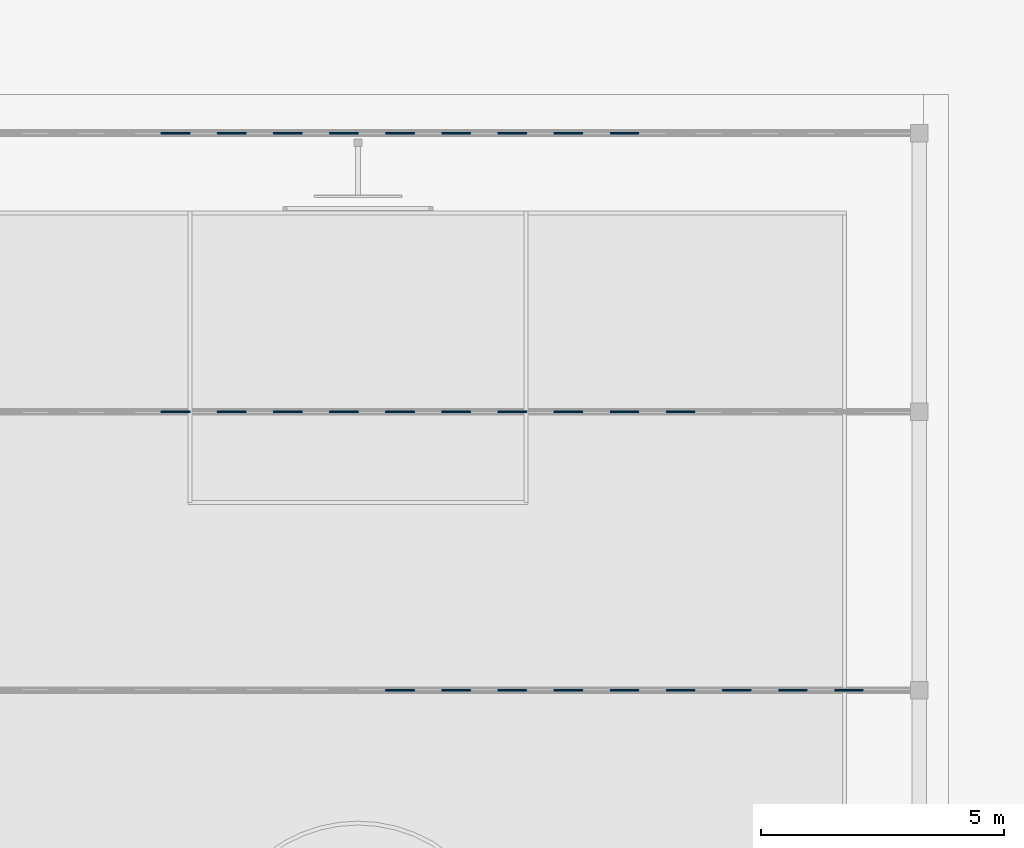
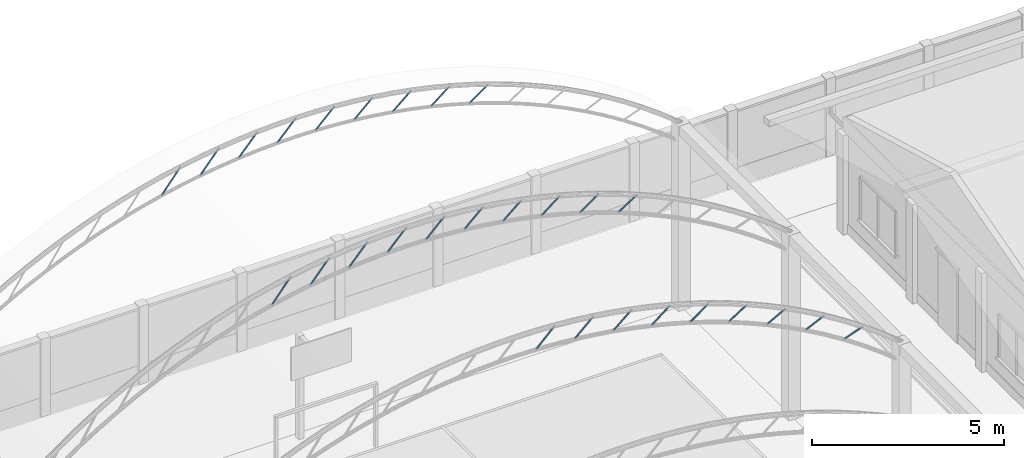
# One storey, part 37 of 177: 28 beams.
"""IFC4 building model written with IfcOpenShell, lengths in metres."""

from ifc_helpers import new_model, si_unit, origin, origin_with_axes, place, context, subcontext, project, spatial, triangles, element, save


model = new_model("IFC4")

# Units and contexts
model_context = context("Model", 3, precision=1e-05, world=origin_with_axes())
body_context = subcontext(model_context, "Body", "Model", "MODEL_VIEW")
ifc_project = project(units=[si_unit("LENGTHUNIT", "METRE"), si_unit("AREAUNIT", "SQUARE_METRE"), si_unit("VOLUMEUNIT", "CUBIC_METRE"), si_unit("PLANEANGLEUNIT", "RADIAN")], contexts=[model_context])

# Site, building, storey
site_placement = place(None, origin_with_axes())
site = spatial("IfcSite", under=ifc_project, at=site_placement, Name="Predio Los Mangos - Morales, San Martín", CompositionType="ELEMENT")
building_placement = place(site_placement, origin())
building = spatial("IfcBuilding", under=site, at=building_placement, Name="Hogar de Refugio Temporal", CompositionType="ELEMENT")
storey_placement = place(building_placement, origin())
storey = spatial("IfcBuildingStorey", under=building, at=storey_placement, Name="NIVEL 1 (NPT +0.00)", CompositionType="ELEMENT", Elevation=0.0)

# Beams
beam_1_placement = place(storey_placement, origin())
element("IfcBeam", 1, at=beam_1_placement, inside=storey, Name="diag", ObjectType="Viga", PredefinedType="BEAM", context=body_context, shape_type="Tessellation", body=[
    triangles([(15.6187, 115.555, 9.5496), (15.6123, 115.5458, 9.5561), (15.6099, 115.5333, 9.5585), (15.6123, 115.5208, 9.5561), (15.6187, 115.5117, 9.5496), (15.6275, 115.5083, 9.5407), (15.6363, 115.5117, 9.5318), (15.6427, 115.5208, 9.5253), (15.6451, 115.5333, 9.523), (15.6427, 115.5458, 9.5253), (15.6363, 115.555, 9.5318), (15.6275, 115.5583, 9.5407), (16.1962, 115.555, 10.1217), (16.1898, 115.5458, 10.1282), (16.1874, 115.5333, 10.1306), (16.1898, 115.5208, 10.1282), (16.1962, 115.5117, 10.1217), (16.205, 115.5083, 10.1129), (16.2138, 115.5117, 10.104), (16.2202, 115.5208, 10.0975), (16.2226, 115.5333, 10.0951), (16.2202, 115.5458, 10.0975), (16.2138, 115.555, 10.104), (16.205, 115.5583, 10.1129)], [[1, 13, 24], [1, 24, 12], [2, 14, 13], [2, 13, 1], [3, 15, 14], [3, 14, 2], [4, 16, 15], [4, 15, 3], [5, 17, 16], [5, 16, 4], [6, 18, 17], [6, 17, 5], [7, 19, 18], [7, 18, 6], [8, 20, 19], [8, 19, 7], [9, 21, 20], [9, 20, 8], [10, 22, 21], [10, 21, 9], [11, 23, 22], [11, 22, 10], [12, 24, 23], [12, 23, 11]]),
])
beam_2_placement = place(storey_placement, origin())
element("IfcBeam", 2, at=beam_2_placement, inside=storey, Name="diag", ObjectType="Viga", PredefinedType="BEAM", context=body_context, shape_type="Tessellation", body=[
    triangles([(16.774, 115.555, 9.4755), (16.7678, 115.5458, 9.4822), (16.7655, 115.5333, 9.4847), (16.7678, 115.5208, 9.4822), (16.774, 115.5117, 9.4755), (16.7825, 115.5083, 9.4663), (16.791, 115.5117, 9.4572), (16.7972, 115.5208, 9.4505), (16.7995, 115.5333, 9.448), (16.7972, 115.5458, 9.4505), (16.791, 115.555, 9.4572), (16.7825, 115.5583, 9.4663), (17.3515, 115.555, 10.0102), (17.3453, 115.5458, 10.0169), (17.343, 115.5333, 10.0193), (17.3453, 115.5208, 10.0169), (17.3515, 115.5117, 10.0102), (17.36, 115.5083, 10.001), (17.3685, 115.5117, 9.9918), (17.3747, 115.5208, 9.9851), (17.377, 115.5333, 9.9827), (17.3747, 115.5458, 9.9851), (17.3685, 115.555, 9.9918), (17.36, 115.5583, 10.001)], [[1, 13, 24], [1, 24, 12], [2, 14, 13], [2, 13, 1], [3, 15, 14], [3, 14, 2], [4, 16, 15], [4, 15, 3], [5, 17, 16], [5, 16, 4], [6, 18, 17], [6, 17, 5], [7, 19, 18], [7, 18, 6], [8, 20, 19], [8, 19, 7], [9, 21, 20], [9, 20, 8], [10, 22, 21], [10, 21, 9], [11, 23, 22], [11, 22, 10], [12, 24, 23], [12, 23, 11]]),
])
beam_3_placement = place(storey_placement, origin())
element("IfcBeam", 3, at=beam_3_placement, inside=storey, Name="diag", ObjectType="Viga", PredefinedType="BEAM", context=body_context, shape_type="Tessellation", body=[
    triangles([(17.9294, 115.555, 9.3261), (17.9234, 115.5458, 9.3331), (17.9212, 115.5333, 9.3356), (17.9234, 115.5208, 9.3331), (17.9294, 115.5117, 9.3261), (17.9375, 115.5083, 9.3166), (17.9456, 115.5117, 9.3072), (17.9516, 115.5208, 9.3002), (17.9538, 115.5333, 9.2977), (17.9516, 115.5458, 9.3002), (17.9456, 115.555, 9.3072), (17.9375, 115.5583, 9.3166), (18.5069, 115.555, 9.8225), (18.5009, 115.5458, 9.8294), (18.4987, 115.5333, 9.8319), (18.5009, 115.5208, 9.8294), (18.5069, 115.5117, 9.8225), (18.515, 115.5083, 9.813), (18.5231, 115.5117, 9.8035), (18.5291, 115.5208, 9.7966), (18.5313, 115.5333, 9.794), (18.5291, 115.5458, 9.7966), (18.5231, 115.555, 9.8035), (18.515, 115.5583, 9.813)], [[1, 13, 24], [1, 24, 12], [2, 14, 13], [2, 13, 1], [3, 15, 14], [3, 14, 2], [4, 16, 15], [4, 15, 3], [5, 17, 16], [5, 16, 4], [6, 18, 17], [6, 17, 5], [7, 19, 18], [7, 18, 6], [8, 20, 19], [8, 19, 7], [9, 21, 20], [9, 20, 8], [10, 22, 21], [10, 21, 9], [11, 23, 22], [11, 22, 10], [12, 24, 23], [12, 23, 11]]),
])
beam_4_placement = place(storey_placement, origin())
element("IfcBeam", 4, at=beam_4_placement, inside=storey, Name="diag", ObjectType="Viga", PredefinedType="BEAM", context=body_context, shape_type="Tessellation", body=[
    triangles([(19.0847, 115.555, 9.0995), (19.0791, 115.5458, 9.1067), (19.077, 115.5333, 9.1093), (19.0791, 115.5208, 9.1067), (19.0847, 115.5117, 9.0995), (19.0925, 115.5083, 9.0897), (19.1003, 115.5117, 9.0799), (19.1059, 115.5208, 9.0727), (19.108, 115.5333, 9.0701), (19.1059, 115.5458, 9.0727), (19.1003, 115.555, 9.0799), (19.0925, 115.5583, 9.0897), (19.6622, 115.555, 9.5562), (19.6566, 115.5458, 9.5633), (19.6545, 115.5333, 9.566), (19.6566, 115.5208, 9.5633), (19.6622, 115.5117, 9.5562), (19.67, 115.5083, 9.5463), (19.6778, 115.5117, 9.5365), (19.6834, 115.5208, 9.5294), (19.6855, 115.5333, 9.5267), (19.6834, 115.5458, 9.5294), (19.6778, 115.555, 9.5365), (19.67, 115.5583, 9.5463)], [[1, 13, 24], [1, 24, 12], [2, 14, 13], [2, 13, 1], [3, 15, 14], [3, 14, 2], [4, 16, 15], [4, 15, 3], [5, 17, 16], [5, 16, 4], [6, 18, 17], [6, 17, 5], [7, 19, 18], [7, 18, 6], [8, 20, 19], [8, 19, 7], [9, 21, 20], [9, 20, 8], [10, 22, 21], [10, 21, 9], [11, 23, 22], [11, 22, 10], [12, 24, 23], [12, 23, 11]]),
])
beam_5_placement = place(storey_placement, origin())
element("IfcBeam", 5, at=beam_5_placement, inside=storey, Name="diag", ObjectType="Viga", PredefinedType="BEAM", context=body_context, shape_type="Tessellation", body=[
    triangles([(20.2402, 115.555, 8.7926), (20.2349, 115.5458, 8.8), (20.2329, 115.5333, 8.8027), (20.2349, 115.5208, 8.8), (20.2402, 115.5117, 8.7926), (20.2475, 115.5083, 8.7824), (20.2548, 115.5117, 8.7723), (20.2601, 115.5208, 8.7649), (20.2621, 115.5333, 8.7621), (20.2601, 115.5458, 8.7649), (20.2548, 115.555, 8.7723), (20.2475, 115.5583, 8.7824), (20.8177, 115.555, 9.2075), (20.8124, 115.5458, 9.215), (20.8104, 115.5333, 9.2177), (20.8124, 115.5208, 9.215), (20.8177, 115.5117, 9.2075), (20.825, 115.5083, 9.1974), (20.8323, 115.5117, 9.1872), (20.8376, 115.5208, 9.1798), (20.8396, 115.5333, 9.1771), (20.8376, 115.5458, 9.1798), (20.8323, 115.555, 9.1872), (20.825, 115.5583, 9.1974)], [[1, 13, 24], [1, 24, 12], [2, 14, 13], [2, 13, 1], [3, 15, 14], [3, 14, 2], [4, 16, 15], [4, 15, 3], [5, 17, 16], [5, 16, 4], [6, 18, 17], [6, 17, 5], [7, 19, 18], [7, 18, 6], [8, 20, 19], [8, 19, 7], [9, 21, 20], [9, 20, 8], [10, 22, 21], [10, 21, 9], [11, 23, 22], [11, 22, 10], [12, 24, 23], [12, 23, 11]]),
])
beam_6_placement = place(storey_placement, origin())
element("IfcBeam", 6, at=beam_6_placement, inside=storey, Name="diag", ObjectType="Viga", PredefinedType="BEAM", context=body_context, shape_type="Tessellation", body=[
    triangles([(21.3958, 115.555, 8.401), (21.3908, 115.5458, 8.4087), (21.389, 115.5333, 8.4115), (21.3908, 115.5208, 8.4087), (21.3958, 115.5117, 8.401), (21.4025, 115.5083, 8.3905), (21.4092, 115.5117, 8.38), (21.4142, 115.5208, 8.3723), (21.416, 115.5333, 8.3695), (21.4142, 115.5458, 8.3723), (21.4092, 115.555, 8.38), (21.4025, 115.5583, 8.3905), (21.9733, 115.555, 8.7715), (21.9683, 115.5458, 8.7792), (21.9665, 115.5333, 8.782), (21.9683, 115.5208, 8.7792), (21.9733, 115.5117, 8.7715), (21.98, 115.5083, 8.7609), (21.9867, 115.5117, 8.7504), (21.9917, 115.5208, 8.7427), (21.9935, 115.5333, 8.7399), (21.9917, 115.5458, 8.7427), (21.9867, 115.555, 8.7504), (21.98, 115.5583, 8.7609)], [[1, 13, 24], [1, 24, 12], [2, 14, 13], [2, 13, 1], [3, 15, 14], [3, 14, 2], [4, 16, 15], [4, 15, 3], [5, 17, 16], [5, 16, 4], [6, 18, 17], [6, 17, 5], [7, 19, 18], [7, 18, 6], [8, 20, 19], [8, 19, 7], [9, 21, 20], [9, 20, 8], [10, 22, 21], [10, 21, 9], [11, 23, 22], [11, 22, 10], [12, 24, 23], [12, 23, 11]]),
])
beam_7_placement = place(storey_placement, origin())
element("IfcBeam", 7, at=beam_7_placement, inside=storey, Name="diag", ObjectType="Viga", PredefinedType="BEAM", context=body_context, shape_type="Tessellation", body=[
    triangles([(22.5514, 115.555, 7.9187), (22.547, 115.5458, 7.9267), (22.5453, 115.5333, 7.9296), (22.547, 115.5208, 7.9267), (22.5514, 115.5117, 7.9187), (22.5575, 115.5083, 7.9077), (22.5636, 115.5117, 7.8968), (22.568, 115.5208, 7.8888), (22.5697, 115.5333, 7.8859), (22.568, 115.5458, 7.8888), (22.5636, 115.555, 7.8968), (22.5575, 115.5583, 7.9077), (23.1289, 115.555, 8.2407), (23.1245, 115.5458, 8.2487), (23.1228, 115.5333, 8.2517), (23.1245, 115.5208, 8.2487), (23.1289, 115.5117, 8.2407), (23.135, 115.5083, 8.2298), (23.1411, 115.5117, 8.2189), (23.1455, 115.5208, 8.2109), (23.1472, 115.5333, 8.208), (23.1455, 115.5458, 8.2109), (23.1411, 115.555, 8.2189), (23.135, 115.5583, 8.2298)], [[1, 13, 24], [1, 24, 12], [2, 14, 13], [2, 13, 1], [3, 15, 14], [3, 14, 2], [4, 16, 15], [4, 15, 3], [5, 17, 16], [5, 16, 4], [6, 18, 17], [6, 17, 5], [7, 19, 18], [7, 18, 6], [8, 20, 19], [8, 19, 7], [9, 21, 20], [9, 20, 8], [10, 22, 21], [10, 21, 9], [11, 23, 22], [11, 22, 10], [12, 24, 23], [12, 23, 11]]),
])
beam_8_placement = place(storey_placement, origin())
element("IfcBeam", 8, at=beam_8_placement, inside=storey, Name="diag", ObjectType="Viga", PredefinedType="BEAM", context=body_context, shape_type="Tessellation", body=[
    triangles([(23.7072, 115.555, 7.3372), (23.7034, 115.5458, 7.3455), (23.702, 115.5333, 7.3485), (23.7034, 115.5208, 7.3455), (23.7072, 115.5117, 7.3372), (23.7125, 115.5083, 7.3259), (23.7178, 115.5117, 7.3145), (23.7216, 115.5208, 7.3062), (23.723, 115.5333, 7.3032), (23.7216, 115.5458, 7.3062), (23.7178, 115.555, 7.3145), (23.7125, 115.5583, 7.3259), (24.2847, 115.555, 7.6056), (24.2809, 115.5458, 7.6139), (24.2795, 115.5333, 7.617), (24.2809, 115.5208, 7.6139), (24.2847, 115.5117, 7.6056), (24.29, 115.5083, 7.5943), (24.2953, 115.5117, 7.583), (24.2991, 115.5208, 7.5747), (24.3005, 115.5333, 7.5716), (24.2991, 115.5458, 7.5747), (24.2953, 115.555, 7.583), (24.29, 115.5583, 7.5943)], [[1, 13, 24], [1, 24, 12], [2, 14, 13], [2, 13, 1], [3, 15, 14], [3, 14, 2], [4, 16, 15], [4, 15, 3], [5, 17, 16], [5, 16, 4], [6, 18, 17], [6, 17, 5], [7, 19, 18], [7, 18, 6], [8, 20, 19], [8, 19, 7], [9, 21, 20], [9, 20, 8], [10, 22, 21], [10, 21, 9], [11, 23, 22], [11, 22, 10], [12, 24, 23], [12, 23, 11]]),
])
beam_9_placement = place(storey_placement, origin())
element("IfcBeam", 9, at=beam_9_placement, inside=storey, Name="diag", ObjectType="Viga", PredefinedType="BEAM", context=body_context, shape_type="Tessellation", body=[
    triangles([(24.8633, 115.555, 6.6451), (24.8602, 115.5458, 6.6537), (24.859, 115.5333, 6.6569), (24.8602, 115.5208, 6.6537), (24.8633, 115.5117, 6.6451), (24.8675, 115.5083, 6.6333), (24.8717, 115.5117, 6.6216), (24.8748, 115.5208, 6.613), (24.876, 115.5333, 6.6098), (24.8748, 115.5458, 6.613), (24.8717, 115.555, 6.6216), (24.8675, 115.5583, 6.6333), (25.4408, 115.555, 6.8526), (25.4377, 115.5458, 6.8612), (25.4365, 115.5333, 6.8643), (25.4377, 115.5208, 6.8612), (25.4408, 115.5117, 6.8526), (25.445, 115.5083, 6.8408), (25.4492, 115.5117, 6.829), (25.4523, 115.5208, 6.8204), (25.4535, 115.5333, 6.8173), (25.4523, 115.5458, 6.8204), (25.4492, 115.555, 6.829), (25.445, 115.5583, 6.8408)], [[1, 13, 24], [1, 24, 12], [2, 14, 13], [2, 13, 1], [3, 15, 14], [3, 14, 2], [4, 16, 15], [4, 15, 3], [5, 17, 16], [5, 16, 4], [6, 18, 17], [6, 17, 5], [7, 19, 18], [7, 18, 6], [8, 20, 19], [8, 19, 7], [9, 21, 20], [9, 20, 8], [10, 22, 21], [10, 21, 9], [11, 23, 22], [11, 22, 10], [12, 24, 23], [12, 23, 11]]),
])
beam_10_placement = place(storey_placement, origin())
element("IfcBeam", 10, at=beam_10_placement, inside=storey, Name="diag", ObjectType="Viga", PredefinedType="BEAM", context=body_context, shape_type="Tessellation", body=[
    triangles([(10.9977, 121.2883, 9.0975), (10.9906, 121.2792, 9.1032), (10.988, 121.2667, 9.1053), (10.9906, 121.2542, 9.1032), (10.9977, 121.245, 9.0975), (11.0075, 121.2417, 9.0897), (11.0173, 121.245, 9.0819), (11.0244, 121.2542, 9.0762), (11.027, 121.2667, 9.0741), (11.0244, 121.2792, 9.0762), (11.0173, 121.2883, 9.0819), (11.0075, 121.2917, 9.0897), (11.5752, 121.2883, 9.8208), (11.5681, 121.2792, 9.8265), (11.5655, 121.2667, 9.8286), (11.5681, 121.2542, 9.8265), (11.5752, 121.245, 9.8208), (11.585, 121.2417, 9.813), (11.5948, 121.245, 9.8052), (11.6019, 121.2542, 9.7995), (11.6045, 121.2667, 9.7974), (11.6019, 121.2792, 9.7995), (11.5948, 121.2883, 9.8052), (11.585, 121.2917, 9.813)], [[1, 13, 24], [1, 24, 12], [2, 14, 13], [2, 13, 1], [3, 15, 14], [3, 14, 2], [4, 16, 15], [4, 15, 3], [5, 17, 16], [5, 16, 4], [6, 18, 17], [6, 17, 5], [7, 19, 18], [7, 18, 6], [8, 20, 19], [8, 19, 7], [9, 21, 20], [9, 20, 8], [10, 22, 21], [10, 21, 9], [11, 23, 22], [11, 22, 10], [12, 24, 23], [12, 23, 11]]),
])
beam_11_placement = place(storey_placement, origin())
element("IfcBeam", 11, at=beam_11_placement, inside=storey, Name="diag", ObjectType="Viga", PredefinedType="BEAM", context=body_context, shape_type="Tessellation", body=[
    triangles([(12.1529, 121.2883, 9.3247), (12.146, 121.2792, 9.3306), (12.1434, 121.2667, 9.3328), (12.146, 121.2542, 9.3306), (12.1529, 121.245, 9.3247), (12.1625, 121.2417, 9.3166), (12.1721, 121.245, 9.3086), (12.179, 121.2542, 9.3027), (12.1816, 121.2667, 9.3005), (12.179, 121.2792, 9.3027), (12.1721, 121.2883, 9.3086), (12.1625, 121.2917, 9.3166), (12.7304, 121.2883, 10.0091), (12.7235, 121.2792, 10.015), (12.7209, 121.2667, 10.0171), (12.7235, 121.2542, 10.015), (12.7304, 121.245, 10.0091), (12.74, 121.2417, 10.001), (12.7496, 121.245, 9.9929), (12.7565, 121.2542, 9.987), (12.7591, 121.2667, 9.9849), (12.7565, 121.2792, 9.987), (12.7496, 121.2883, 9.9929), (12.74, 121.2917, 10.001)], [[1, 13, 24], [1, 24, 12], [2, 14, 13], [2, 13, 1], [3, 15, 14], [3, 14, 2], [4, 16, 15], [4, 15, 3], [5, 17, 16], [5, 16, 4], [6, 18, 17], [6, 17, 5], [7, 19, 18], [7, 18, 6], [8, 20, 19], [8, 19, 7], [9, 21, 20], [9, 20, 8], [10, 22, 21], [10, 21, 9], [11, 23, 22], [11, 22, 10], [12, 24, 23], [12, 23, 11]]),
])
beam_12_placement = place(storey_placement, origin())
element("IfcBeam", 12, at=beam_12_placement, inside=storey, Name="diag", ObjectType="Viga", PredefinedType="BEAM", context=body_context, shape_type="Tessellation", body=[
    triangles([(13.3082, 121.2883, 9.4747), (13.3014, 121.2792, 9.4808), (13.2989, 121.2667, 9.483), (13.3014, 121.2542, 9.4808), (13.3082, 121.245, 9.4747), (13.3175, 121.2417, 9.4663), (13.3268, 121.245, 9.458), (13.3336, 121.2542, 9.4519), (13.3361, 121.2667, 9.4497), (13.3336, 121.2792, 9.4519), (13.3268, 121.2883, 9.458), (13.3175, 121.2917, 9.4663), (13.8857, 121.2883, 10.1212), (13.8789, 121.2792, 10.1273), (13.8764, 121.2667, 10.1295), (13.8789, 121.2542, 10.1273), (13.8857, 121.245, 10.1212), (13.895, 121.2417, 10.1129), (13.9043, 121.245, 10.1045), (13.9111, 121.2542, 10.0984), (13.9136, 121.2667, 10.0962), (13.9111, 121.2792, 10.0984), (13.9043, 121.2883, 10.1045), (13.895, 121.2917, 10.1129)], [[1, 13, 24], [1, 24, 12], [2, 14, 13], [2, 13, 1], [3, 15, 14], [3, 14, 2], [4, 16, 15], [4, 15, 3], [5, 17, 16], [5, 16, 4], [6, 18, 17], [6, 17, 5], [7, 19, 18], [7, 18, 6], [8, 20, 19], [8, 19, 7], [9, 21, 20], [9, 20, 8], [10, 22, 21], [10, 21, 9], [11, 23, 22], [11, 22, 10], [12, 24, 23], [12, 23, 11]]),
])
beam_13_placement = place(storey_placement, origin())
element("IfcBeam", 13, at=beam_13_placement, inside=storey, Name="diag", ObjectType="Viga", PredefinedType="BEAM", context=body_context, shape_type="Tessellation", body=[
    triangles([(14.4634, 121.2883, 9.5493), (14.4568, 121.2792, 9.5556), (14.4544, 121.2667, 9.5579), (14.4568, 121.2542, 9.5556), (14.4634, 121.245, 9.5493), (14.4725, 121.2417, 9.5407), (14.4816, 121.245, 9.5321), (14.4882, 121.2542, 9.5258), (14.4906, 121.2667, 9.5235), (14.4882, 121.2792, 9.5258), (14.4816, 121.2883, 9.5321), (14.4725, 121.2917, 9.5407), (15.0409, 121.2883, 10.1586), (15.0343, 121.2792, 10.1649), (15.0319, 121.2667, 10.1672), (15.0343, 121.2542, 10.1649), (15.0409, 121.245, 10.1586), (15.05, 121.2417, 10.15), (15.0591, 121.245, 10.1414), (15.0657, 121.2542, 10.1351), (15.0681, 121.2667, 10.1328), (15.0657, 121.2792, 10.1351), (15.0591, 121.2883, 10.1414), (15.05, 121.2917, 10.15)], [[1, 13, 24], [1, 24, 12], [2, 14, 13], [2, 13, 1], [3, 15, 14], [3, 14, 2], [4, 16, 15], [4, 15, 3], [5, 17, 16], [5, 16, 4], [6, 18, 17], [6, 17, 5], [7, 19, 18], [7, 18, 6], [8, 20, 19], [8, 19, 7], [9, 21, 20], [9, 20, 8], [10, 22, 21], [10, 21, 9], [11, 23, 22], [11, 22, 10], [12, 24, 23], [12, 23, 11]]),
])
beam_14_placement = place(storey_placement, origin())
element("IfcBeam", 14, at=beam_14_placement, inside=storey, Name="diag", ObjectType="Viga", PredefinedType="BEAM", context=body_context, shape_type="Tessellation", body=[
    triangles([(15.6187, 121.2883, 9.5496), (15.6123, 121.2792, 9.5561), (15.6099, 121.2667, 9.5585), (15.6123, 121.2542, 9.5561), (15.6187, 121.245, 9.5496), (15.6275, 121.2417, 9.5407), (15.6363, 121.245, 9.5318), (15.6427, 121.2542, 9.5253), (15.6451, 121.2667, 9.523), (15.6427, 121.2792, 9.5253), (15.6363, 121.2883, 9.5318), (15.6275, 121.2917, 9.5407), (16.1962, 121.2883, 10.1217), (16.1898, 121.2792, 10.1282), (16.1874, 121.2667, 10.1306), (16.1898, 121.2542, 10.1282), (16.1962, 121.245, 10.1217), (16.205, 121.2417, 10.1129), (16.2138, 121.245, 10.104), (16.2202, 121.2542, 10.0975), (16.2226, 121.2667, 10.0951), (16.2202, 121.2792, 10.0975), (16.2138, 121.2883, 10.104), (16.205, 121.2917, 10.1129)], [[1, 13, 24], [1, 24, 12], [2, 14, 13], [2, 13, 1], [3, 15, 14], [3, 14, 2], [4, 16, 15], [4, 15, 3], [5, 17, 16], [5, 16, 4], [6, 18, 17], [6, 17, 5], [7, 19, 18], [7, 18, 6], [8, 20, 19], [8, 19, 7], [9, 21, 20], [9, 20, 8], [10, 22, 21], [10, 21, 9], [11, 23, 22], [11, 22, 10], [12, 24, 23], [12, 23, 11]]),
])
beam_15_placement = place(storey_placement, origin())
element("IfcBeam", 15, at=beam_15_placement, inside=storey, Name="diag", ObjectType="Viga", PredefinedType="BEAM", context=body_context, shape_type="Tessellation", body=[
    triangles([(16.774, 121.2883, 9.4755), (16.7678, 121.2792, 9.4822), (16.7655, 121.2667, 9.4847), (16.7678, 121.2542, 9.4822), (16.774, 121.245, 9.4755), (16.7825, 121.2417, 9.4663), (16.791, 121.245, 9.4572), (16.7972, 121.2542, 9.4505), (16.7995, 121.2667, 9.448), (16.7972, 121.2792, 9.4505), (16.791, 121.2883, 9.4572), (16.7825, 121.2917, 9.4663), (17.3515, 121.2883, 10.0102), (17.3453, 121.2792, 10.0169), (17.343, 121.2667, 10.0193), (17.3453, 121.2542, 10.0169), (17.3515, 121.245, 10.0102), (17.36, 121.2417, 10.001), (17.3685, 121.245, 9.9918), (17.3747, 121.2542, 9.9851), (17.377, 121.2667, 9.9827), (17.3747, 121.2792, 9.9851), (17.3685, 121.2883, 9.9918), (17.36, 121.2917, 10.001)], [[1, 13, 24], [1, 24, 12], [2, 14, 13], [2, 13, 1], [3, 15, 14], [3, 14, 2], [4, 16, 15], [4, 15, 3], [5, 17, 16], [5, 16, 4], [6, 18, 17], [6, 17, 5], [7, 19, 18], [7, 18, 6], [8, 20, 19], [8, 19, 7], [9, 21, 20], [9, 20, 8], [10, 22, 21], [10, 21, 9], [11, 23, 22], [11, 22, 10], [12, 24, 23], [12, 23, 11]]),
])
beam_16_placement = place(storey_placement, origin())
element("IfcBeam", 16, at=beam_16_placement, inside=storey, Name="diag", ObjectType="Viga", PredefinedType="BEAM", context=body_context, shape_type="Tessellation", body=[
    triangles([(17.9294, 121.2883, 9.3261), (17.9234, 121.2792, 9.3331), (17.9212, 121.2667, 9.3356), (17.9234, 121.2542, 9.3331), (17.9294, 121.245, 9.3261), (17.9375, 121.2417, 9.3166), (17.9456, 121.245, 9.3072), (17.9516, 121.2542, 9.3002), (17.9538, 121.2667, 9.2977), (17.9516, 121.2792, 9.3002), (17.9456, 121.2883, 9.3072), (17.9375, 121.2917, 9.3166), (18.5069, 121.2883, 9.8225), (18.5009, 121.2792, 9.8294), (18.4987, 121.2667, 9.8319), (18.5009, 121.2542, 9.8294), (18.5069, 121.245, 9.8225), (18.515, 121.2417, 9.813), (18.5231, 121.245, 9.8035), (18.5291, 121.2542, 9.7966), (18.5313, 121.2667, 9.794), (18.5291, 121.2792, 9.7966), (18.5231, 121.2883, 9.8035), (18.515, 121.2917, 9.813)], [[1, 13, 24], [1, 24, 12], [2, 14, 13], [2, 13, 1], [3, 15, 14], [3, 14, 2], [4, 16, 15], [4, 15, 3], [5, 17, 16], [5, 16, 4], [6, 18, 17], [6, 17, 5], [7, 19, 18], [7, 18, 6], [8, 20, 19], [8, 19, 7], [9, 21, 20], [9, 20, 8], [10, 22, 21], [10, 21, 9], [11, 23, 22], [11, 22, 10], [12, 24, 23], [12, 23, 11]]),
])
beam_17_placement = place(storey_placement, origin())
element("IfcBeam", 17, at=beam_17_placement, inside=storey, Name="diag", ObjectType="Viga", PredefinedType="BEAM", context=body_context, shape_type="Tessellation", body=[
    triangles([(19.0847, 121.2883, 9.0995), (19.0791, 121.2792, 9.1067), (19.077, 121.2667, 9.1093), (19.0791, 121.2542, 9.1067), (19.0847, 121.245, 9.0995), (19.0925, 121.2417, 9.0897), (19.1003, 121.245, 9.0799), (19.1059, 121.2542, 9.0727), (19.108, 121.2667, 9.0701), (19.1059, 121.2792, 9.0727), (19.1003, 121.2883, 9.0799), (19.0925, 121.2917, 9.0897), (19.6622, 121.2883, 9.5562), (19.6566, 121.2792, 9.5633), (19.6545, 121.2667, 9.566), (19.6566, 121.2542, 9.5633), (19.6622, 121.245, 9.5562), (19.67, 121.2417, 9.5463), (19.6778, 121.245, 9.5365), (19.6834, 121.2542, 9.5294), (19.6855, 121.2667, 9.5267), (19.6834, 121.2792, 9.5294), (19.6778, 121.2883, 9.5365), (19.67, 121.2917, 9.5463)], [[1, 13, 24], [1, 24, 12], [2, 14, 13], [2, 13, 1], [3, 15, 14], [3, 14, 2], [4, 16, 15], [4, 15, 3], [5, 17, 16], [5, 16, 4], [6, 18, 17], [6, 17, 5], [7, 19, 18], [7, 18, 6], [8, 20, 19], [8, 19, 7], [9, 21, 20], [9, 20, 8], [10, 22, 21], [10, 21, 9], [11, 23, 22], [11, 22, 10], [12, 24, 23], [12, 23, 11]]),
])
beam_18_placement = place(storey_placement, origin())
element("IfcBeam", 18, at=beam_18_placement, inside=storey, Name="diag", ObjectType="Viga", PredefinedType="BEAM", context=body_context, shape_type="Tessellation", body=[
    triangles([(20.2402, 121.2883, 8.7926), (20.2349, 121.2792, 8.8), (20.2329, 121.2667, 8.8027), (20.2349, 121.2542, 8.8), (20.2402, 121.245, 8.7926), (20.2475, 121.2417, 8.7824), (20.2548, 121.245, 8.7723), (20.2601, 121.2542, 8.7649), (20.2621, 121.2667, 8.7621), (20.2601, 121.2792, 8.7649), (20.2548, 121.2883, 8.7723), (20.2475, 121.2917, 8.7824), (20.8177, 121.2883, 9.2075), (20.8124, 121.2792, 9.215), (20.8104, 121.2667, 9.2177), (20.8124, 121.2542, 9.215), (20.8177, 121.245, 9.2075), (20.825, 121.2417, 9.1974), (20.8323, 121.245, 9.1872), (20.8376, 121.2542, 9.1798), (20.8396, 121.2667, 9.1771), (20.8376, 121.2792, 9.1798), (20.8323, 121.2883, 9.1872), (20.825, 121.2917, 9.1974)], [[1, 13, 24], [1, 24, 12], [2, 14, 13], [2, 13, 1], [3, 15, 14], [3, 14, 2], [4, 16, 15], [4, 15, 3], [5, 17, 16], [5, 16, 4], [6, 18, 17], [6, 17, 5], [7, 19, 18], [7, 18, 6], [8, 20, 19], [8, 19, 7], [9, 21, 20], [9, 20, 8], [10, 22, 21], [10, 21, 9], [11, 23, 22], [11, 22, 10], [12, 24, 23], [12, 23, 11]]),
])
beam_19_placement = place(storey_placement, origin())
element("IfcBeam", 19, at=beam_19_placement, inside=storey, Name="diag", ObjectType="Viga", PredefinedType="BEAM", context=body_context, shape_type="Tessellation", body=[
    triangles([(21.3958, 121.2883, 8.401), (21.3908, 121.2792, 8.4087), (21.389, 121.2667, 8.4115), (21.3908, 121.2542, 8.4087), (21.3958, 121.245, 8.401), (21.4025, 121.2417, 8.3905), (21.4092, 121.245, 8.38), (21.4142, 121.2542, 8.3723), (21.416, 121.2667, 8.3695), (21.4142, 121.2792, 8.3723), (21.4092, 121.2883, 8.38), (21.4025, 121.2917, 8.3905), (21.9733, 121.2883, 8.7715), (21.9683, 121.2792, 8.7792), (21.9665, 121.2667, 8.782), (21.9683, 121.2542, 8.7792), (21.9733, 121.245, 8.7715), (21.98, 121.2417, 8.7609), (21.9867, 121.245, 8.7504), (21.9917, 121.2542, 8.7427), (21.9935, 121.2667, 8.7399), (21.9917, 121.2792, 8.7427), (21.9867, 121.2883, 8.7504), (21.98, 121.2917, 8.7609)], [[1, 13, 24], [1, 24, 12], [2, 14, 13], [2, 13, 1], [3, 15, 14], [3, 14, 2], [4, 16, 15], [4, 15, 3], [5, 17, 16], [5, 16, 4], [6, 18, 17], [6, 17, 5], [7, 19, 18], [7, 18, 6], [8, 20, 19], [8, 19, 7], [9, 21, 20], [9, 20, 8], [10, 22, 21], [10, 21, 9], [11, 23, 22], [11, 22, 10], [12, 24, 23], [12, 23, 11]]),
])
beam_20_placement = place(storey_placement, origin())
element("IfcBeam", 20, at=beam_20_placement, inside=storey, Name="diag", ObjectType="Viga", PredefinedType="BEAM", context=body_context, shape_type="Tessellation", body=[
    triangles([(10.9977, 127.0217, 9.0975), (10.9906, 127.0125, 9.1032), (10.988, 127.0, 9.1053), (10.9906, 126.9875, 9.1032), (10.9977, 126.9783, 9.0975), (11.0075, 126.975, 9.0897), (11.0173, 126.9783, 9.0819), (11.0244, 126.9875, 9.0762), (11.027, 127.0, 9.0741), (11.0244, 127.0125, 9.0762), (11.0173, 127.0217, 9.0819), (11.0075, 127.025, 9.0897), (11.5752, 127.0217, 9.8208), (11.5681, 127.0125, 9.8265), (11.5655, 127.0, 9.8286), (11.5681, 126.9875, 9.8265), (11.5752, 126.9783, 9.8208), (11.585, 126.975, 9.813), (11.5948, 126.9783, 9.8052), (11.6019, 126.9875, 9.7995), (11.6045, 127.0, 9.7974), (11.6019, 127.0125, 9.7995), (11.5948, 127.0217, 9.8052), (11.585, 127.025, 9.813)], [[1, 13, 24], [1, 24, 12], [2, 14, 13], [2, 13, 1], [3, 15, 14], [3, 14, 2], [4, 16, 15], [4, 15, 3], [5, 17, 16], [5, 16, 4], [6, 18, 17], [6, 17, 5], [7, 19, 18], [7, 18, 6], [8, 20, 19], [8, 19, 7], [9, 21, 20], [9, 20, 8], [10, 22, 21], [10, 21, 9], [11, 23, 22], [11, 22, 10], [12, 24, 23], [12, 23, 11]]),
])
beam_21_placement = place(storey_placement, origin())
element("IfcBeam", 21, at=beam_21_placement, inside=storey, Name="diag", ObjectType="Viga", PredefinedType="BEAM", context=body_context, shape_type="Tessellation", body=[
    triangles([(12.1529, 127.0217, 9.3247), (12.146, 127.0125, 9.3306), (12.1434, 127.0, 9.3328), (12.146, 126.9875, 9.3306), (12.1529, 126.9783, 9.3247), (12.1625, 126.975, 9.3166), (12.1721, 126.9783, 9.3086), (12.179, 126.9875, 9.3027), (12.1816, 127.0, 9.3005), (12.179, 127.0125, 9.3027), (12.1721, 127.0217, 9.3086), (12.1625, 127.025, 9.3166), (12.7304, 127.0217, 10.0091), (12.7235, 127.0125, 10.015), (12.7209, 127.0, 10.0171), (12.7235, 126.9875, 10.015), (12.7304, 126.9783, 10.0091), (12.74, 126.975, 10.001), (12.7496, 126.9783, 9.9929), (12.7565, 126.9875, 9.987), (12.7591, 127.0, 9.9849), (12.7565, 127.0125, 9.987), (12.7496, 127.0217, 9.9929), (12.74, 127.025, 10.001)], [[1, 13, 24], [1, 24, 12], [2, 14, 13], [2, 13, 1], [3, 15, 14], [3, 14, 2], [4, 16, 15], [4, 15, 3], [5, 17, 16], [5, 16, 4], [6, 18, 17], [6, 17, 5], [7, 19, 18], [7, 18, 6], [8, 20, 19], [8, 19, 7], [9, 21, 20], [9, 20, 8], [10, 22, 21], [10, 21, 9], [11, 23, 22], [11, 22, 10], [12, 24, 23], [12, 23, 11]]),
])
beam_22_placement = place(storey_placement, origin())
element("IfcBeam", 22, at=beam_22_placement, inside=storey, Name="diag", ObjectType="Viga", PredefinedType="BEAM", context=body_context, shape_type="Tessellation", body=[
    triangles([(13.3082, 127.0217, 9.4747), (13.3014, 127.0125, 9.4808), (13.2989, 127.0, 9.483), (13.3014, 126.9875, 9.4808), (13.3082, 126.9783, 9.4747), (13.3175, 126.975, 9.4663), (13.3268, 126.9783, 9.458), (13.3336, 126.9875, 9.4519), (13.3361, 127.0, 9.4497), (13.3336, 127.0125, 9.4519), (13.3268, 127.0217, 9.458), (13.3175, 127.025, 9.4663), (13.8857, 127.0217, 10.1212), (13.8789, 127.0125, 10.1273), (13.8764, 127.0, 10.1295), (13.8789, 126.9875, 10.1273), (13.8857, 126.9783, 10.1212), (13.895, 126.975, 10.1129), (13.9043, 126.9783, 10.1045), (13.9111, 126.9875, 10.0984), (13.9136, 127.0, 10.0962), (13.9111, 127.0125, 10.0984), (13.9043, 127.0217, 10.1045), (13.895, 127.025, 10.1129)], [[1, 13, 24], [1, 24, 12], [2, 14, 13], [2, 13, 1], [3, 15, 14], [3, 14, 2], [4, 16, 15], [4, 15, 3], [5, 17, 16], [5, 16, 4], [6, 18, 17], [6, 17, 5], [7, 19, 18], [7, 18, 6], [8, 20, 19], [8, 19, 7], [9, 21, 20], [9, 20, 8], [10, 22, 21], [10, 21, 9], [11, 23, 22], [11, 22, 10], [12, 24, 23], [12, 23, 11]]),
])
beam_23_placement = place(storey_placement, origin())
element("IfcBeam", 23, at=beam_23_placement, inside=storey, Name="diag", ObjectType="Viga", PredefinedType="BEAM", context=body_context, shape_type="Tessellation", body=[
    triangles([(14.4634, 127.0217, 9.5493), (14.4568, 127.0125, 9.5556), (14.4544, 127.0, 9.5579), (14.4568, 126.9875, 9.5556), (14.4634, 126.9783, 9.5493), (14.4725, 126.975, 9.5407), (14.4816, 126.9783, 9.5321), (14.4882, 126.9875, 9.5258), (14.4906, 127.0, 9.5235), (14.4882, 127.0125, 9.5258), (14.4816, 127.0217, 9.5321), (14.4725, 127.025, 9.5407), (15.0409, 127.0217, 10.1586), (15.0343, 127.0125, 10.1649), (15.0319, 127.0, 10.1672), (15.0343, 126.9875, 10.1649), (15.0409, 126.9783, 10.1586), (15.05, 126.975, 10.15), (15.0591, 126.9783, 10.1414), (15.0657, 126.9875, 10.1351), (15.0681, 127.0, 10.1328), (15.0657, 127.0125, 10.1351), (15.0591, 127.0217, 10.1414), (15.05, 127.025, 10.15)], [[1, 13, 24], [1, 24, 12], [2, 14, 13], [2, 13, 1], [3, 15, 14], [3, 14, 2], [4, 16, 15], [4, 15, 3], [5, 17, 16], [5, 16, 4], [6, 18, 17], [6, 17, 5], [7, 19, 18], [7, 18, 6], [8, 20, 19], [8, 19, 7], [9, 21, 20], [9, 20, 8], [10, 22, 21], [10, 21, 9], [11, 23, 22], [11, 22, 10], [12, 24, 23], [12, 23, 11]]),
])
beam_24_placement = place(storey_placement, origin())
element("IfcBeam", 24, at=beam_24_placement, inside=storey, Name="diag", ObjectType="Viga", PredefinedType="BEAM", context=body_context, shape_type="Tessellation", body=[
    triangles([(15.6187, 127.0217, 9.5496), (15.6123, 127.0125, 9.5561), (15.6099, 127.0, 9.5585), (15.6123, 126.9875, 9.5561), (15.6187, 126.9783, 9.5496), (15.6275, 126.975, 9.5407), (15.6363, 126.9783, 9.5318), (15.6427, 126.9875, 9.5253), (15.6451, 127.0, 9.523), (15.6427, 127.0125, 9.5253), (15.6363, 127.0217, 9.5318), (15.6275, 127.025, 9.5407), (16.1962, 127.0217, 10.1217), (16.1898, 127.0125, 10.1282), (16.1874, 127.0, 10.1306), (16.1898, 126.9875, 10.1282), (16.1962, 126.9783, 10.1217), (16.205, 126.975, 10.1129), (16.2138, 126.9783, 10.104), (16.2202, 126.9875, 10.0975), (16.2226, 127.0, 10.0951), (16.2202, 127.0125, 10.0975), (16.2138, 127.0217, 10.104), (16.205, 127.025, 10.1129)], [[1, 13, 24], [1, 24, 12], [2, 14, 13], [2, 13, 1], [3, 15, 14], [3, 14, 2], [4, 16, 15], [4, 15, 3], [5, 17, 16], [5, 16, 4], [6, 18, 17], [6, 17, 5], [7, 19, 18], [7, 18, 6], [8, 20, 19], [8, 19, 7], [9, 21, 20], [9, 20, 8], [10, 22, 21], [10, 21, 9], [11, 23, 22], [11, 22, 10], [12, 24, 23], [12, 23, 11]]),
])
beam_25_placement = place(storey_placement, origin())
element("IfcBeam", 25, at=beam_25_placement, inside=storey, Name="diag", ObjectType="Viga", PredefinedType="BEAM", context=body_context, shape_type="Tessellation", body=[
    triangles([(16.774, 127.0217, 9.4755), (16.7678, 127.0125, 9.4822), (16.7655, 127.0, 9.4847), (16.7678, 126.9875, 9.4822), (16.774, 126.9783, 9.4755), (16.7825, 126.975, 9.4663), (16.791, 126.9783, 9.4572), (16.7972, 126.9875, 9.4505), (16.7995, 127.0, 9.448), (16.7972, 127.0125, 9.4505), (16.791, 127.0217, 9.4572), (16.7825, 127.025, 9.4663), (17.3515, 127.0217, 10.0102), (17.3453, 127.0125, 10.0169), (17.343, 127.0, 10.0193), (17.3453, 126.9875, 10.0169), (17.3515, 126.9783, 10.0102), (17.36, 126.975, 10.001), (17.3685, 126.9783, 9.9918), (17.3747, 126.9875, 9.9851), (17.377, 127.0, 9.9827), (17.3747, 127.0125, 9.9851), (17.3685, 127.0217, 9.9918), (17.36, 127.025, 10.001)], [[1, 13, 24], [1, 24, 12], [2, 14, 13], [2, 13, 1], [3, 15, 14], [3, 14, 2], [4, 16, 15], [4, 15, 3], [5, 17, 16], [5, 16, 4], [6, 18, 17], [6, 17, 5], [7, 19, 18], [7, 18, 6], [8, 20, 19], [8, 19, 7], [9, 21, 20], [9, 20, 8], [10, 22, 21], [10, 21, 9], [11, 23, 22], [11, 22, 10], [12, 24, 23], [12, 23, 11]]),
])
beam_26_placement = place(storey_placement, origin())
element("IfcBeam", 26, at=beam_26_placement, inside=storey, Name="diag", ObjectType="Viga", PredefinedType="BEAM", context=body_context, shape_type="Tessellation", body=[
    triangles([(17.9294, 127.0217, 9.3261), (17.9234, 127.0125, 9.3331), (17.9212, 127.0, 9.3356), (17.9234, 126.9875, 9.3331), (17.9294, 126.9783, 9.3261), (17.9375, 126.975, 9.3166), (17.9456, 126.9783, 9.3072), (17.9516, 126.9875, 9.3002), (17.9538, 127.0, 9.2977), (17.9516, 127.0125, 9.3002), (17.9456, 127.0217, 9.3072), (17.9375, 127.025, 9.3166), (18.5069, 127.0217, 9.8225), (18.5009, 127.0125, 9.8294), (18.4987, 127.0, 9.8319), (18.5009, 126.9875, 9.8294), (18.5069, 126.9783, 9.8225), (18.515, 126.975, 9.813), (18.5231, 126.9783, 9.8035), (18.5291, 126.9875, 9.7966), (18.5313, 127.0, 9.794), (18.5291, 127.0125, 9.7966), (18.5231, 127.0217, 9.8035), (18.515, 127.025, 9.813)], [[1, 13, 24], [1, 24, 12], [2, 14, 13], [2, 13, 1], [3, 15, 14], [3, 14, 2], [4, 16, 15], [4, 15, 3], [5, 17, 16], [5, 16, 4], [6, 18, 17], [6, 17, 5], [7, 19, 18], [7, 18, 6], [8, 20, 19], [8, 19, 7], [9, 21, 20], [9, 20, 8], [10, 22, 21], [10, 21, 9], [11, 23, 22], [11, 22, 10], [12, 24, 23], [12, 23, 11]]),
])
beam_27_placement = place(storey_placement, origin())
element("IfcBeam", 27, at=beam_27_placement, inside=storey, Name="diag", ObjectType="Viga", PredefinedType="BEAM", context=body_context, shape_type="Tessellation", body=[
    triangles([(19.0847, 127.0217, 9.0995), (19.0791, 127.0125, 9.1067), (19.077, 127.0, 9.1093), (19.0791, 126.9875, 9.1067), (19.0847, 126.9783, 9.0995), (19.0925, 126.975, 9.0897), (19.1003, 126.9783, 9.0799), (19.1059, 126.9875, 9.0727), (19.108, 127.0, 9.0701), (19.1059, 127.0125, 9.0727), (19.1003, 127.0217, 9.0799), (19.0925, 127.025, 9.0897), (19.6622, 127.0217, 9.5562), (19.6566, 127.0125, 9.5633), (19.6545, 127.0, 9.566), (19.6566, 126.9875, 9.5633), (19.6622, 126.9783, 9.5562), (19.67, 126.975, 9.5463), (19.6778, 126.9783, 9.5365), (19.6834, 126.9875, 9.5294), (19.6855, 127.0, 9.5267), (19.6834, 127.0125, 9.5294), (19.6778, 127.0217, 9.5365), (19.67, 127.025, 9.5463)], [[1, 13, 24], [1, 24, 12], [2, 14, 13], [2, 13, 1], [3, 15, 14], [3, 14, 2], [4, 16, 15], [4, 15, 3], [5, 17, 16], [5, 16, 4], [6, 18, 17], [6, 17, 5], [7, 19, 18], [7, 18, 6], [8, 20, 19], [8, 19, 7], [9, 21, 20], [9, 20, 8], [10, 22, 21], [10, 21, 9], [11, 23, 22], [11, 22, 10], [12, 24, 23], [12, 23, 11]]),
])
beam_28_placement = place(storey_placement, origin())
element("IfcBeam", 28, at=beam_28_placement, inside=storey, Name="diag", ObjectType="Viga", PredefinedType="BEAM", context=body_context, shape_type="Tessellation", body=[
    triangles([(20.2402, 127.0217, 8.7926), (20.2349, 127.0125, 8.8), (20.2329, 127.0, 8.8027), (20.2349, 126.9875, 8.8), (20.2402, 126.9783, 8.7926), (20.2475, 126.975, 8.7824), (20.2548, 126.9783, 8.7723), (20.2601, 126.9875, 8.7649), (20.2621, 127.0, 8.7621), (20.2601, 127.0125, 8.7649), (20.2548, 127.0217, 8.7723), (20.2475, 127.025, 8.7824), (20.8177, 127.0217, 9.2075), (20.8124, 127.0125, 9.215), (20.8104, 127.0, 9.2177), (20.8124, 126.9875, 9.215), (20.8177, 126.9783, 9.2075), (20.825, 126.975, 9.1974), (20.8323, 126.9783, 9.1872), (20.8376, 126.9875, 9.1798), (20.8396, 127.0, 9.1771), (20.8376, 127.0125, 9.1798), (20.8323, 127.0217, 9.1872), (20.825, 127.025, 9.1974)], [[1, 13, 24], [1, 24, 12], [2, 14, 13], [2, 13, 1], [3, 15, 14], [3, 14, 2], [4, 16, 15], [4, 15, 3], [5, 17, 16], [5, 16, 4], [6, 18, 17], [6, 17, 5], [7, 19, 18], [7, 18, 6], [8, 20, 19], [8, 19, 7], [9, 21, 20], [9, 20, 8], [10, 22, 21], [10, 21, 9], [11, 23, 22], [11, 22, 10], [12, 24, 23], [12, 23, 11]]),
])

save(model, "model.ifc")
